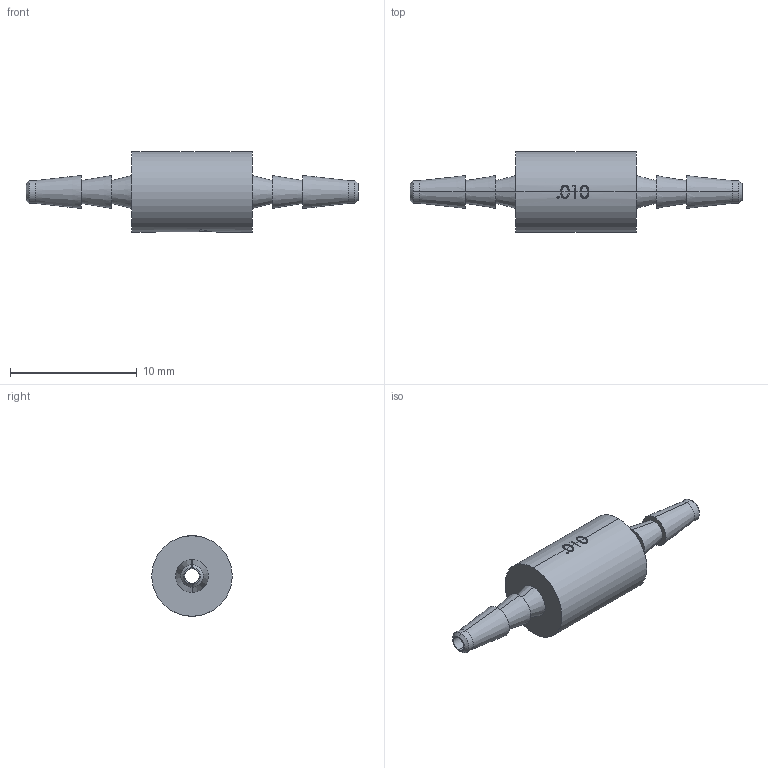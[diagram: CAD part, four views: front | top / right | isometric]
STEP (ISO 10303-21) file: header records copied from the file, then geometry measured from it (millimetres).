
FILE_DESCRIPTION(/* description */ ('SolidWorks IGES file using analytic representation for surfaces '),/* implementation_level */ '2;1');
FILE_NAME(/* name */ 'K:\Normteile INVENTOR\Air-Logic\Orifice restrictors\F-2815-101-B80.IGS.ipt.stp',/* time_stamp */ '2020-05-27T10:46:04+02:00',/* author */ ('cad'),/* organization */ (''),/* preprocessor_version */ 'ST-DEVELOPER v18',/* originating_system */ 'Autodesk Inventor 2020',/* authorisation */ '');
FILE_SCHEMA (('AUTOMOTIVE_DESIGN { 1 0 10303 214 3 1 1 }'));
Length unit declared in the file: millimetre
Products named in the file (1): F-2815-101-B80.IGS
Bounding box: 26.21 x 6.35 x 6.35 mm (x, y, z)
Surface area: 467 mm2 (no closed solid volume)
Topology: 0 solids, 79 shells, 79 faces, 381 edges, 381 vertices
Faces by surface type: bspline 25, cylinder 20, plane 18, cone 16
Entity records: 7240 total; most frequent: CARTESIAN_POINT 4266, DIRECTION 488, VERTEX_POINT 381, EDGE_CURVE 381, ORIENTED_EDGE 381, LINE 192, VECTOR 192, AXIS2_PLACEMENT_3D 148
